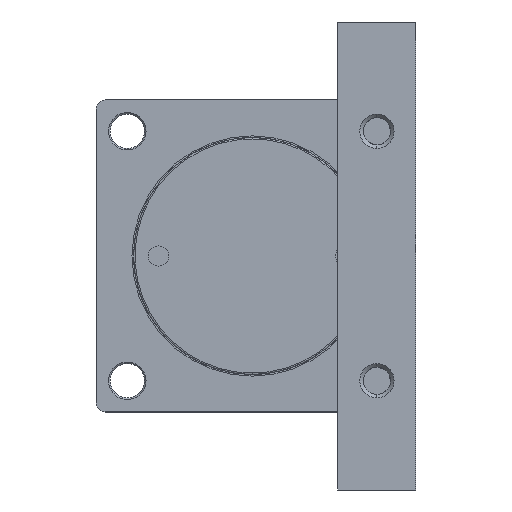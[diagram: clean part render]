
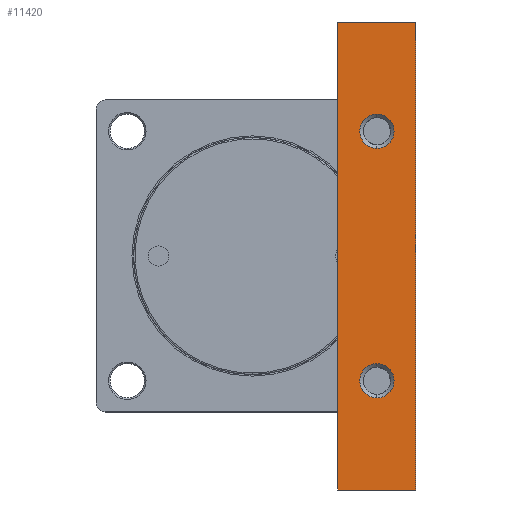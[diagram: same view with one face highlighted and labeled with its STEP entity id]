
A CAD part, left-side view. The second image highlights one B-rep face of the part: STEP entity #11420.
In plain terms, the highlighted planar face has unit normal (1, 0, 0).
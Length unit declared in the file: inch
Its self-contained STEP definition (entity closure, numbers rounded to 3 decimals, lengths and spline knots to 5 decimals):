
#62 = FACE_BOUND ( 'NONE', #11563, .T. ) ;
#94 = VERTEX_POINT ( 'NONE', #1752 ) ;
#138 = DIRECTION ( 'NONE',  ( 0., 0., 1. ) ) ;
#139 = DIRECTION ( 'NONE',  ( 0., 0., -1. ) ) ;
#154 = DIRECTION ( 'NONE',  ( -1., 0., 0. ) ) ;
#157 = CARTESIAN_POINT ( 'NONE',  ( -3.3622, -3.14961, -3.14961 ) ) ;
#166 = DIRECTION ( 'NONE',  ( 1., 0., 0. ) ) ;
#200 = CARTESIAN_POINT ( 'NONE',  ( -3.3622, -4.13386, 5.90551 ) ) ;
#247 = PLANE ( 'NONE',  #8377 ) ;
#319 = DIRECTION ( 'NONE',  ( 0., 1., 0. ) ) ;
#321 = VERTEX_POINT ( 'NONE', #5897 ) ;
#344 = CARTESIAN_POINT ( 'NONE',  ( -3.3622, -4.13386, -5.90551 ) ) ;
#369 = CARTESIAN_POINT ( 'NONE',  ( -3.3622, -3.14961, 3.14961 ) ) ;
#832 = AXIS2_PLACEMENT_3D ( 'NONE', #157, #154, #138 ) ;
#954 = CARTESIAN_POINT ( 'NONE',  ( -3.3622, -3.14961, 3.58268 ) ) ;
#959 = CIRCLE ( 'NONE', #7770, 0.43307 ) ;
#1335 = ORIENTED_EDGE ( 'NONE', *, *, #14597, .T. ) ;
#1752 = CARTESIAN_POINT ( 'NONE',  ( -3.3622, -3.14961, -2.71654 ) ) ;
#2183 = CARTESIAN_POINT ( 'NONE',  ( -3.3622, -4.13386, -5.90551 ) ) ;
#2202 = ORIENTED_EDGE ( 'NONE', *, *, #12329, .T. ) ;
#2653 = VERTEX_POINT ( 'NONE', #12672 ) ;
#3008 = EDGE_CURVE ( 'NONE', #2653, #321, #8951, .T. ) ;
#3797 = VERTEX_POINT ( 'NONE', #954 ) ;
#4346 = ORIENTED_EDGE ( 'NONE', *, *, #3008, .T. ) ;
#4356 = CARTESIAN_POINT ( 'NONE',  ( -3.3622, -4.13386, 5.90551 ) ) ;
#4370 = VERTEX_POINT ( 'NONE', #12071 ) ;
#4627 = FACE_BOUND ( 'NONE', #10358, .T. ) ;
#5331 = CARTESIAN_POINT ( 'NONE',  ( -3.3622, -3.14961, -3.58268 ) ) ;
#5342 = CARTESIAN_POINT ( 'NONE',  ( -3.3622, -2.16535, 5.90551 ) ) ;
#5345 = DIRECTION ( 'NONE',  ( 0., 0., 1. ) ) ;
#5759 = EDGE_CURVE ( 'NONE', #4370, #3797, #959, .T. ) ;
#5897 = CARTESIAN_POINT ( 'NONE',  ( -3.3622, -2.16535, 5.90551 ) ) ;
#6097 = AXIS2_PLACEMENT_3D ( 'NONE', #6498, #6494, #6459 ) ;
#6125 = ORIENTED_EDGE ( 'NONE', *, *, #8911, .T. ) ;
#6241 = AXIS2_PLACEMENT_3D ( 'NONE', #7624, #7608, #7593 ) ;
#6459 = DIRECTION ( 'NONE',  ( 0., 0., 1. ) ) ;
#6494 = DIRECTION ( 'NONE',  ( -1., 0., 0. ) ) ;
#6498 = CARTESIAN_POINT ( 'NONE',  ( -3.3622, -3.14961, 3.14961 ) ) ;
#7272 = VECTOR ( 'NONE', #14656, 39.37008 ) ;
#7274 = ORIENTED_EDGE ( 'NONE', *, *, #12609, .T. ) ;
#7493 = FACE_OUTER_BOUND ( 'NONE', #9901, .T. ) ;
#7497 = VERTEX_POINT ( 'NONE', #5331 ) ;
#7593 = DIRECTION ( 'NONE',  ( 0., 0., 1. ) ) ;
#7608 = DIRECTION ( 'NONE',  ( -1., 0., 0. ) ) ;
#7624 = CARTESIAN_POINT ( 'NONE',  ( -3.3622, -3.14961, -3.14961 ) ) ;
#7770 = AXIS2_PLACEMENT_3D ( 'NONE', #369, #8287, #10266 ) ;
#7951 = LINE ( 'NONE', #4356, #12213 ) ;
#8287 = DIRECTION ( 'NONE',  ( -1., 0., 0. ) ) ;
#8361 = ORIENTED_EDGE ( 'NONE', *, *, #5759, .T. ) ;
#8377 = AXIS2_PLACEMENT_3D ( 'NONE', #200, #166, #139 ) ;
#8378 = ORIENTED_EDGE ( 'NONE', *, *, #11747, .T. ) ;
#8911 = EDGE_CURVE ( 'NONE', #321, #14943, #13790, .T. ) ;
#8921 = VECTOR ( 'NONE', #5345, 39.37008 ) ;
#8922 = CIRCLE ( 'NONE', #6097, 0.43307 ) ;
#8951 = LINE ( 'NONE', #5342, #8921 ) ;
#9060 = CIRCLE ( 'NONE', #6241, 0.43307 ) ;
#9471 = ORIENTED_EDGE ( 'NONE', *, *, #11382, .T. ) ;
#9901 = EDGE_LOOP ( 'NONE', ( #4346, #6125, #8378, #9471 ) ) ;
#10206 = CIRCLE ( 'NONE', #832, 0.43307 ) ;
#10266 = DIRECTION ( 'NONE',  ( 0., 0., 1. ) ) ;
#10358 = EDGE_LOOP ( 'NONE', ( #7274, #8361 ) ) ;
#10857 = VERTEX_POINT ( 'NONE', #2183 ) ;
#11382 = EDGE_CURVE ( 'NONE', #10857, #2653, #14885, .T. ) ;
#11420 = ADVANCED_FACE ( 'NONE', ( #7493, #4627, #62 ), #247, .T. ) ;
#11563 = EDGE_LOOP ( 'NONE', ( #2202, #1335 ) ) ;
#11747 = EDGE_CURVE ( 'NONE', #14943, #10857, #7951, .T. ) ;
#11951 = CARTESIAN_POINT ( 'NONE',  ( -3.3622, -4.13386, 5.90551 ) ) ;
#12071 = CARTESIAN_POINT ( 'NONE',  ( -3.3622, -3.14961, 2.71654 ) ) ;
#12182 = VECTOR ( 'NONE', #319, 39.37008 ) ;
#12213 = VECTOR ( 'NONE', #14807, 39.37008 ) ;
#12329 = EDGE_CURVE ( 'NONE', #94, #7497, #9060, .T. ) ;
#12609 = EDGE_CURVE ( 'NONE', #3797, #4370, #8922, .T. ) ;
#12672 = CARTESIAN_POINT ( 'NONE',  ( -3.3622, -2.16535, -5.90551 ) ) ;
#13790 = LINE ( 'NONE', #14521, #7272 ) ;
#14521 = CARTESIAN_POINT ( 'NONE',  ( -3.3622, -4.13386, 5.90551 ) ) ;
#14597 = EDGE_CURVE ( 'NONE', #7497, #94, #10206, .T. ) ;
#14656 = DIRECTION ( 'NONE',  ( 0., -1., 0. ) ) ;
#14807 = DIRECTION ( 'NONE',  ( 0., 0., -1. ) ) ;
#14885 = LINE ( 'NONE', #344, #12182 ) ;
#14943 = VERTEX_POINT ( 'NONE', #11951 ) ;
